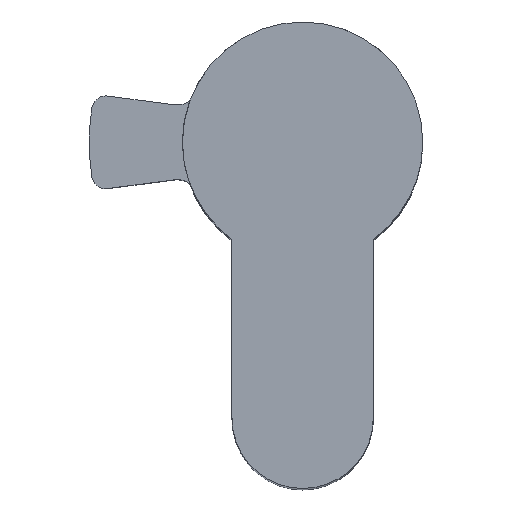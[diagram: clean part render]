
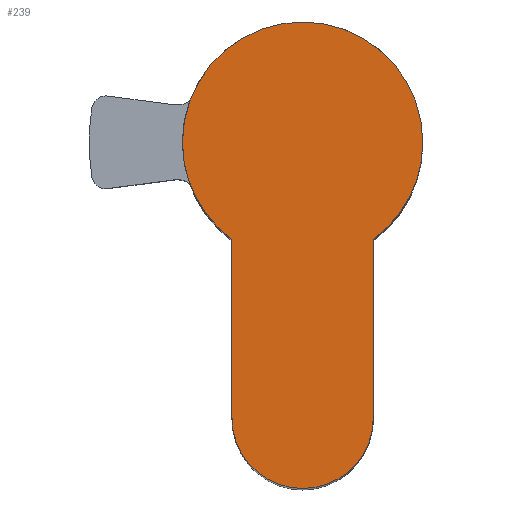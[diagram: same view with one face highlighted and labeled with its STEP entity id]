
A CAD part, top view. The second image highlights one B-rep face of the part: STEP entity #239.
In plain terms, the highlighted planar face has unit normal (0, 0, 1).
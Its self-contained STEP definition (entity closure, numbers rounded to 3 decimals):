
#54 = CARTESIAN_POINT ( 'NONE',  ( 0., -19.5, 10. ) ) ;
#65 = ORIENTED_EDGE ( 'NONE', *, *, #408, .T. ) ;
#78 = VERTEX_POINT ( 'NONE', #208 ) ;
#104 = CIRCLE ( 'NONE', #309, 8.5 ) ;
#206 = CARTESIAN_POINT ( 'NONE',  ( 5., -19.5, 10. ) ) ;
#208 = CARTESIAN_POINT ( 'NONE',  ( -8.5, 0., 10. ) ) ;
#239 = ADVANCED_FACE ( 'NONE', ( #886 ), #1241, .T. ) ;
#250 = AXIS2_PLACEMENT_3D ( 'NONE', #54, #1276, #679 ) ;
#276 = CARTESIAN_POINT ( 'NONE',  ( 5., -19.5, 10. ) ) ;
#282 = LINE ( 'NONE', #324, #358 ) ;
#287 = DIRECTION ( 'NONE',  ( 0., 0., 1. ) ) ;
#309 = AXIS2_PLACEMENT_3D ( 'NONE', #449, #323, #1537 ) ;
#320 = DIRECTION ( 'NONE',  ( 1., 0., 0. ) ) ;
#323 = DIRECTION ( 'NONE',  ( 0., 0., 1. ) ) ;
#324 = CARTESIAN_POINT ( 'NONE',  ( -5., -6.874, 10. ) ) ;
#356 = CIRCLE ( 'NONE', #924, 8.5 ) ;
#358 = VECTOR ( 'NONE', #661, 1000. ) ;
#388 = CARTESIAN_POINT ( 'NONE',  ( 8.5, 0., 10. ) ) ;
#398 = EDGE_CURVE ( 'NONE', #1554, #546, #356, .T. ) ;
#408 = EDGE_CURVE ( 'NONE', #1152, #485, #1580, .T. ) ;
#434 = ORIENTED_EDGE ( 'NONE', *, *, #398, .T. ) ;
#449 = CARTESIAN_POINT ( 'NONE',  ( 0., 0., 10. ) ) ;
#469 = EDGE_LOOP ( 'NONE', ( #434, #1245, #1163, #866, #65, #559 ) ) ;
#485 = VERTEX_POINT ( 'NONE', #206 ) ;
#524 = CARTESIAN_POINT ( 'NONE',  ( 0., 0., 10. ) ) ;
#546 = VERTEX_POINT ( 'NONE', #388 ) ;
#559 = ORIENTED_EDGE ( 'NONE', *, *, #1381, .T. ) ;
#567 = VECTOR ( 'NONE', #650, 1000. ) ;
#634 = DIRECTION ( 'NONE',  ( 1., 0., 0. ) ) ;
#650 = DIRECTION ( 'NONE',  ( 0., 1., 0. ) ) ;
#661 = DIRECTION ( 'NONE',  ( 0., -1., 0. ) ) ;
#679 = DIRECTION ( 'NONE',  ( 1., 0., 0. ) ) ;
#685 = CARTESIAN_POINT ( 'NONE',  ( 0., 0., 10. ) ) ;
#706 = EDGE_CURVE ( 'NONE', #1042, #1152, #282, .T. ) ;
#788 = DIRECTION ( 'NONE',  ( 0., 0., 1. ) ) ;
#866 = ORIENTED_EDGE ( 'NONE', *, *, #706, .T. ) ;
#871 = LINE ( 'NONE', #276, #567 ) ;
#872 = CARTESIAN_POINT ( 'NONE',  ( -5., -6.874, 10. ) ) ;
#886 = FACE_OUTER_BOUND ( 'NONE', #469, .T. ) ;
#924 = AXIS2_PLACEMENT_3D ( 'NONE', #685, #788, #320 ) ;
#989 = CARTESIAN_POINT ( 'NONE',  ( 5., -6.874, 10. ) ) ;
#1010 = DIRECTION ( 'NONE',  ( 0., 0., 1. ) ) ;
#1042 = VERTEX_POINT ( 'NONE', #872 ) ;
#1107 = EDGE_CURVE ( 'NONE', #546, #78, #1237, .T. ) ;
#1150 = DIRECTION ( 'NONE',  ( 1., 0., 0. ) ) ;
#1152 = VERTEX_POINT ( 'NONE', #1400 ) ;
#1163 = ORIENTED_EDGE ( 'NONE', *, *, #1168, .T. ) ;
#1168 = EDGE_CURVE ( 'NONE', #78, #1042, #104, .T. ) ;
#1237 = CIRCLE ( 'NONE', #1564, 8.5 ) ;
#1241 = PLANE ( 'NONE',  #1408 ) ;
#1245 = ORIENTED_EDGE ( 'NONE', *, *, #1107, .T. ) ;
#1276 = DIRECTION ( 'NONE',  ( 0., 0., 1. ) ) ;
#1381 = EDGE_CURVE ( 'NONE', #485, #1554, #871, .T. ) ;
#1392 = CARTESIAN_POINT ( 'NONE',  ( 0., 0., 10. ) ) ;
#1400 = CARTESIAN_POINT ( 'NONE',  ( -5., -19.5, 10. ) ) ;
#1408 = AXIS2_PLACEMENT_3D ( 'NONE', #524, #1010, #634 ) ;
#1537 = DIRECTION ( 'NONE',  ( 1., 0., 0. ) ) ;
#1554 = VERTEX_POINT ( 'NONE', #989 ) ;
#1564 = AXIS2_PLACEMENT_3D ( 'NONE', #1392, #287, #1150 ) ;
#1580 = CIRCLE ( 'NONE', #250, 5. ) ;
